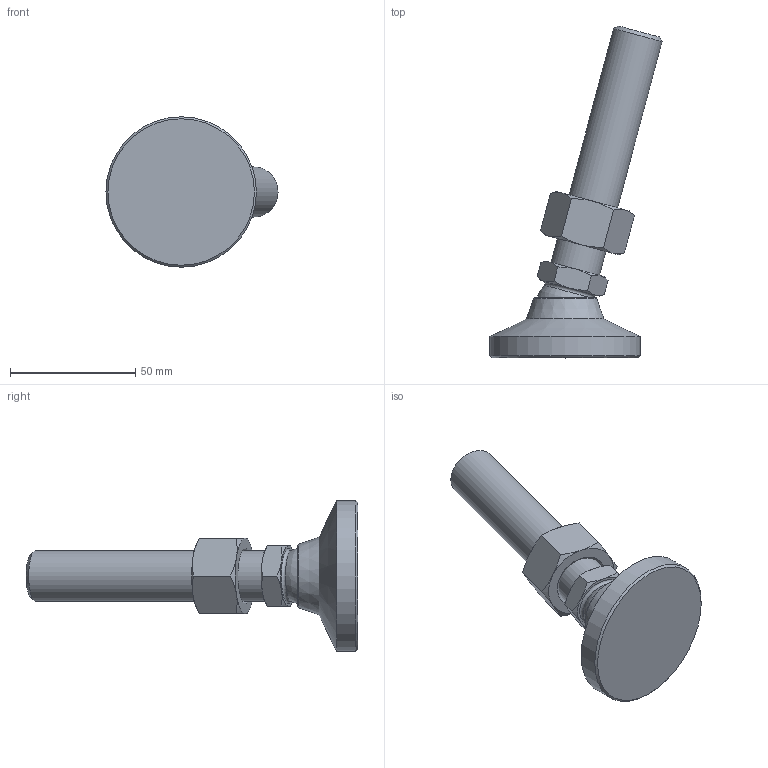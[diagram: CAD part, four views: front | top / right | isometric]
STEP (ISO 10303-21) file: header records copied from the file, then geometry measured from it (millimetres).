
FILE_DESCRIPTION( ( 'STEP AP214' ), ' ' );
FILE_NAME( 'O:/ganter_2015/teil_2/2_5/gn343_2/gn343_2_os/Levelling foot with threaded stud GN 343.2-60-M20-98-OS-(-15).stp', '2015-10-26T09:08:45', ( '' ), ( '' ), ' ', 'PARTsolutions', ' ' );
FILE_SCHEMA( ( 'AUTOMOTIVE_DESIGN { 1 0 10303 214 1 1 1 1 }' ) );
Length unit declared in the file: millimetre
Products named in the file (4): Levelling foot with threaded stud GN 343.2-60-M20-98-OS-(-15); _Levelling foot with threaded stud GN 343.2-60-M20-98-OS-(-15)_foot; _Levelling foot with threaded stud GN 343.2-60-M20-98-OS-(-15)_screw; _Stainless Steel-Levelling feet GN 343.2-60-M20-98-OS-(-15)_nut
Assembly tree (3 placements, depth 2):
  Levelling foot with threaded stud GN 343.2-60-M20-98-OS-(-15)
    _Levelling foot with threaded stud GN 343.2-60-M20-98-OS-(-15)_foot
    _Levelling foot with threaded stud GN 343.2-60-M20-98-OS-(-15)_screw
    _Stainless Steel-Levelling feet GN 343.2-60-M20-98-OS-(-15)_nut
Bounding box: 68.63 x 132.33 x 60 mm (x, y, z)
Volume: 86620.6 mm3; surface area: 21181.3 mm2
Topology: 3 solids, 3 shells, 56 faces, 117 edges, 68 vertices
Faces by surface type: cone 30, plane 19, cylinder 3, torus 2, sphere 2
Full cylindrical faces by diameter (mm): 17.294 x1, 20 x1, 60 x1
Entity records: 2090 total; most frequent: CARTESIAN_POINT 522, DIRECTION 212, ORIENTED_EDGE 200, AXIS2_PLACEMENT_3D 100, EDGE_CURVE 100, EDGE_LOOP 72, VERTEX_POINT 66, FACE_OUTER_BOUND 61
